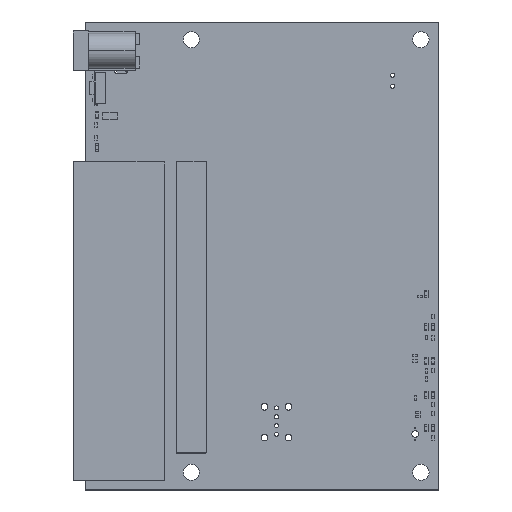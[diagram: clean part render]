
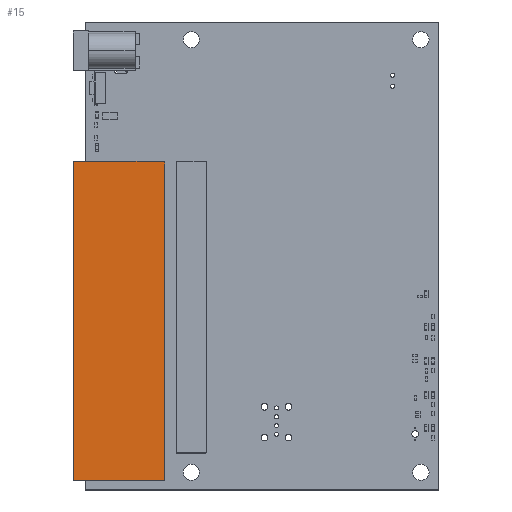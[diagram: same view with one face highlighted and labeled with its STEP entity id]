
A CAD part, top view. The second image highlights one B-rep face of the part: STEP entity #15.
In plain terms, the highlighted planar face has unit normal (0, 0, 1).
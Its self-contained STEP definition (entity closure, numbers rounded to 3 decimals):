
#15 = ADVANCED_FACE ( 'NONE', ( #8914 ), #9576, .T. ) ;
#136 = EDGE_CURVE ( 'NONE', #4574, #7329, #8899, .T. ) ;
#150 = VECTOR ( 'NONE', #14814, 1000. ) ;
#282 = VECTOR ( 'NONE', #13236, 1000. ) ;
#429 = VERTEX_POINT ( 'NONE', #15776 ) ;
#1173 = VERTEX_POINT ( 'NONE', #2140 ) ;
#1640 = LINE ( 'NONE', #12339, #15594 ) ;
#1698 = DIRECTION ( 'NONE',  ( 1., 0., 0. ) ) ;
#2140 = CARTESIAN_POINT ( 'NONE',  ( -2.65, 2.056, 13. ) ) ;
#2604 = EDGE_LOOP ( 'NONE', ( #11705, #12310, #9943, #6042, #5266 ) ) ;
#3138 = CARTESIAN_POINT ( 'NONE',  ( 17.975, 74.268, 13. ) ) ;
#3404 = EDGE_CURVE ( 'NONE', #1173, #7597, #1640, .T. ) ;
#3737 = DIRECTION ( 'NONE',  ( -0.707, 0.707, 0. ) ) ;
#4574 = VERTEX_POINT ( 'NONE', #3138 ) ;
#4782 = AXIS2_PLACEMENT_3D ( 'NONE', #9456, #12307, #15957 ) ;
#5266 = ORIENTED_EDGE ( 'NONE', *, *, #9079, .F. ) ;
#5274 = LINE ( 'NONE', #14046, #9341 ) ;
#5310 = LINE ( 'NONE', #9536, #282 ) ;
#5585 = VECTOR ( 'NONE', #3737, 1000. ) ;
#6042 = ORIENTED_EDGE ( 'NONE', *, *, #136, .T. ) ;
#7329 = VERTEX_POINT ( 'NONE', #13720 ) ;
#7427 = DIRECTION ( 'NONE',  ( 0., 1., 0. ) ) ;
#7513 = CARTESIAN_POINT ( 'NONE',  ( 17.975, 74.268, 13. ) ) ;
#7597 = VERTEX_POINT ( 'NONE', #15445 ) ;
#8899 = LINE ( 'NONE', #7513, #5585 ) ;
#8914 = FACE_OUTER_BOUND ( 'NONE', #2604, .T. ) ;
#9079 = EDGE_CURVE ( 'NONE', #7597, #7329, #5274, .T. ) ;
#9341 = VECTOR ( 'NONE', #1698, 1000. ) ;
#9456 = CARTESIAN_POINT ( 'NONE',  ( 17.975, 2.056, 13. ) ) ;
#9536 = CARTESIAN_POINT ( 'NONE',  ( 17.975, 2.056, 13. ) ) ;
#9576 = PLANE ( 'NONE',  #4782 ) ;
#9943 = ORIENTED_EDGE ( 'NONE', *, *, #15848, .F. ) ;
#10336 = EDGE_CURVE ( 'NONE', #429, #1173, #5310, .T. ) ;
#10952 = LINE ( 'NONE', #13457, #150 ) ;
#11705 = ORIENTED_EDGE ( 'NONE', *, *, #3404, .F. ) ;
#12307 = DIRECTION ( 'NONE',  ( 0., 0., 1. ) ) ;
#12310 = ORIENTED_EDGE ( 'NONE', *, *, #10336, .F. ) ;
#12339 = CARTESIAN_POINT ( 'NONE',  ( -2.65, 2.056, 13. ) ) ;
#13236 = DIRECTION ( 'NONE',  ( -1., 0., 0. ) ) ;
#13457 = CARTESIAN_POINT ( 'NONE',  ( 17.975, 74.268, 13. ) ) ;
#13720 = CARTESIAN_POINT ( 'NONE',  ( 17.848, 74.395, 13. ) ) ;
#14046 = CARTESIAN_POINT ( 'NONE',  ( -2.65, 74.395, 13. ) ) ;
#14814 = DIRECTION ( 'NONE',  ( 0., -1., 0. ) ) ;
#15445 = CARTESIAN_POINT ( 'NONE',  ( -2.65, 74.395, 13. ) ) ;
#15594 = VECTOR ( 'NONE', #7427, 1000. ) ;
#15776 = CARTESIAN_POINT ( 'NONE',  ( 17.975, 2.056, 13. ) ) ;
#15848 = EDGE_CURVE ( 'NONE', #4574, #429, #10952, .T. ) ;
#15957 = DIRECTION ( 'NONE',  ( 1., 0., 0. ) ) ;
